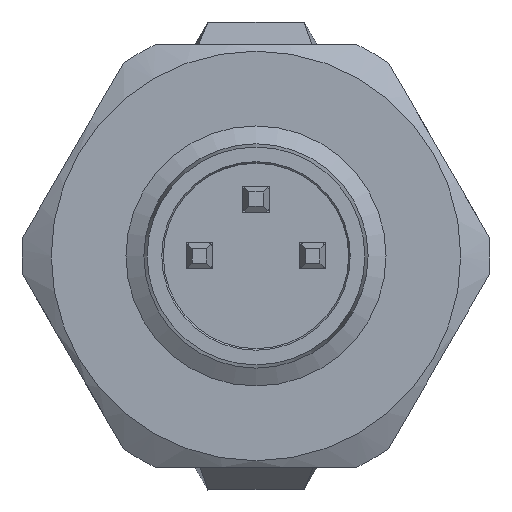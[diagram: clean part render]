
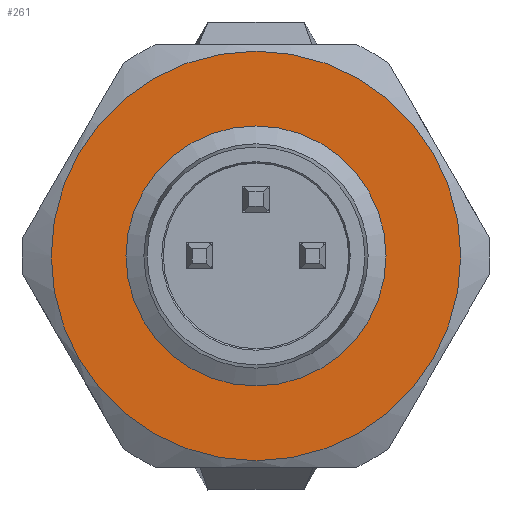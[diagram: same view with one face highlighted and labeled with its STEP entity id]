
A CAD part, left-side view. The second image highlights one B-rep face of the part: STEP entity #261.
In plain terms, the highlighted planar face has unit normal (-1, 0, 0) as drawn and (0, 1, 0) by its records, which use the part's own axes.
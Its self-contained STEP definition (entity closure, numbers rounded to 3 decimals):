
#261 = ADVANCED_FACE( '', ( #451, #452 ), #453, .T. );
#451 = FACE_BOUND( '', #650, .T. );
#452 = FACE_OUTER_BOUND( '', #651, .T. );
#453 = PLANE( '', #652 );
#650 = EDGE_LOOP( '', ( #1305 ) );
#651 = EDGE_LOOP( '', ( #1306 ) );
#652 = AXIS2_PLACEMENT_3D( '', #1307, #1308, #1309 );
#1305 = ORIENTED_EDGE( '', *, *, #1528, .T. );
#1306 = ORIENTED_EDGE( '', *, *, #1502, .F. );
#1307 = CARTESIAN_POINT( '', ( 0., 2., 0. ) );
#1308 = DIRECTION( '', ( 0., 1., 0. ) );
#1309 = DIRECTION( '', ( 0., 0., 1. ) );
#1502 = EDGE_CURVE( '', #1828, #1828, #1829, .T. );
#1528 = EDGE_CURVE( '', #1868, #1868, #1869, .F. );
#1828 = VERTEX_POINT( '', #2304 );
#1829 = CIRCLE( '', #2305, 6.3 );
#1868 = VERTEX_POINT( '', #2424 );
#1869 = CIRCLE( '', #2425, 3.959 );
#2304 = CARTESIAN_POINT( '', ( 0., 2., -6.3 ) );
#2305 = AXIS2_PLACEMENT_3D( '', #2714, #2715, #2716 );
#2424 = CARTESIAN_POINT( '', ( 0., 2., 3.959 ) );
#2425 = AXIS2_PLACEMENT_3D( '', #2750, #2751, #2752 );
#2714 = CARTESIAN_POINT( '', ( 0., 2., 0. ) );
#2715 = DIRECTION( '', ( 0., -1., 0. ) );
#2716 = DIRECTION( '', ( 0., 0., -1. ) );
#2750 = CARTESIAN_POINT( '', ( 0., 2., 0. ) );
#2751 = DIRECTION( '', ( 0., 1., 0. ) );
#2752 = DIRECTION( '', ( 0., 0., 1. ) );
